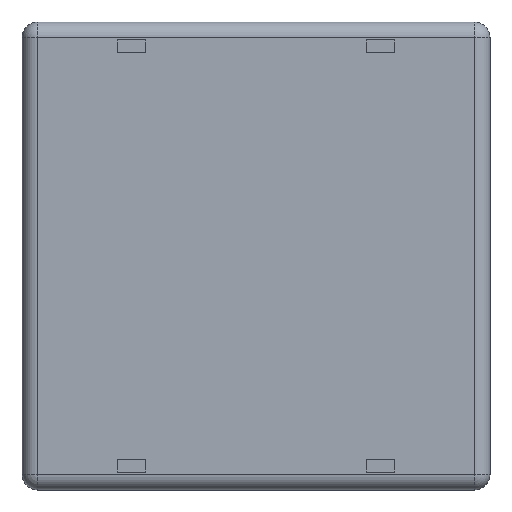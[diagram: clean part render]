
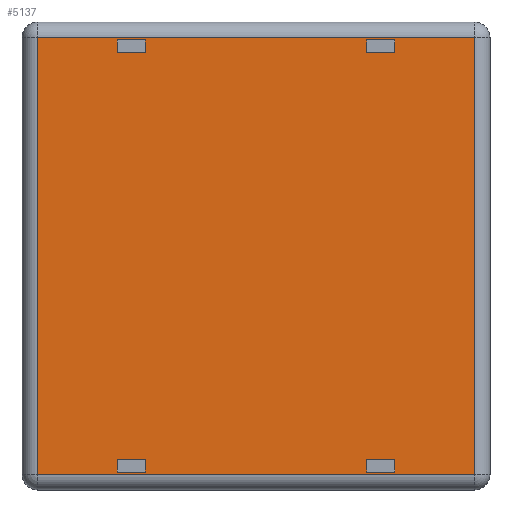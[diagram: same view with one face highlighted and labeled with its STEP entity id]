
A CAD part, front view. The second image highlights one B-rep face of the part: STEP entity #5137.
In plain terms, the highlighted planar face has unit normal (0, -1, 0).
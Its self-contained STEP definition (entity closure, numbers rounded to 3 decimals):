
#144=LINE('',#15174,#553);
#147=LINE('',#15179,#556);
#149=LINE('',#15184,#558);
#152=LINE('',#15189,#561);
#154=LINE('',#15194,#563);
#157=LINE('',#15199,#566);
#159=LINE('',#15204,#568);
#162=LINE('',#15209,#571);
#218=LINE('',#15362,#627);
#220=LINE('',#15370,#629);
#222=LINE('',#15378,#631);
#224=LINE('',#15387,#633);
#246=LINE('',#15442,#655);
#247=LINE('',#15443,#656);
#248=LINE('',#15445,#657);
#249=LINE('',#15446,#658);
#250=LINE('',#15448,#659);
#251=LINE('',#15449,#660);
#252=LINE('',#15451,#661);
#253=LINE('',#15452,#662);
#553=VECTOR('',#6458,10.);
#556=VECTOR('',#6463,10.);
#558=VECTOR('',#6467,10.);
#561=VECTOR('',#6472,10.);
#563=VECTOR('',#6476,10.);
#566=VECTOR('',#6481,10.);
#568=VECTOR('',#6485,10.);
#571=VECTOR('',#6490,10.);
#627=VECTOR('',#6650,10.);
#629=VECTOR('',#6658,10.);
#631=VECTOR('',#6666,10.);
#633=VECTOR('',#6678,10.);
#655=VECTOR('',#6728,10.);
#656=VECTOR('',#6729,10.);
#657=VECTOR('',#6730,10.);
#658=VECTOR('',#6731,10.);
#659=VECTOR('',#6732,10.);
#660=VECTOR('',#6733,10.);
#661=VECTOR('',#6734,10.);
#662=VECTOR('',#6735,10.);
#892=FACE_BOUND('',#1954,.T.);
#893=FACE_BOUND('',#1955,.T.);
#894=FACE_BOUND('',#1956,.T.);
#895=FACE_BOUND('',#1957,.T.);
#1237=PLANE('',#5655);
#1614=FACE_OUTER_BOUND('',#1953,.T.);
#1953=EDGE_LOOP('',(#4307,#4308,#4309,#4310));
#1954=EDGE_LOOP('',(#4311,#4312,#4313,#4314));
#1955=EDGE_LOOP('',(#4315,#4316,#4317,#4318));
#1956=EDGE_LOOP('',(#4319,#4320,#4321,#4322));
#1957=EDGE_LOOP('',(#4323,#4324,#4325,#4326));
#2577=VERTEX_POINT('',#15171);
#2578=VERTEX_POINT('',#15173);
#2579=VERTEX_POINT('',#15177);
#2580=VERTEX_POINT('',#15181);
#2581=VERTEX_POINT('',#15183);
#2582=VERTEX_POINT('',#15187);
#2583=VERTEX_POINT('',#15191);
#2584=VERTEX_POINT('',#15193);
#2585=VERTEX_POINT('',#15197);
#2586=VERTEX_POINT('',#15201);
#2587=VERTEX_POINT('',#15203);
#2588=VERTEX_POINT('',#15207);
#2632=VERTEX_POINT('',#15359);
#2633=VERTEX_POINT('',#15361);
#2636=VERTEX_POINT('',#15369);
#2639=VERTEX_POINT('',#15377);
#2660=VERTEX_POINT('',#15441);
#2661=VERTEX_POINT('',#15444);
#2662=VERTEX_POINT('',#15447);
#2663=VERTEX_POINT('',#15450);
#3123=EDGE_CURVE('',#2578,#2577,#144,.T.);
#3126=EDGE_CURVE('',#2577,#2579,#147,.T.);
#3128=EDGE_CURVE('',#2581,#2580,#149,.T.);
#3131=EDGE_CURVE('',#2580,#2582,#152,.T.);
#3133=EDGE_CURVE('',#2584,#2583,#154,.T.);
#3136=EDGE_CURVE('',#2583,#2585,#157,.T.);
#3138=EDGE_CURVE('',#2587,#2586,#159,.T.);
#3141=EDGE_CURVE('',#2586,#2588,#162,.T.);
#3214=EDGE_CURVE('',#2632,#2633,#218,.T.);
#3218=EDGE_CURVE('',#2633,#2636,#220,.T.);
#3222=EDGE_CURVE('',#2636,#2639,#222,.T.);
#3227=EDGE_CURVE('',#2639,#2632,#224,.T.);
#3255=EDGE_CURVE('',#2588,#2660,#246,.T.);
#3256=EDGE_CURVE('',#2660,#2587,#247,.T.);
#3257=EDGE_CURVE('',#2585,#2661,#248,.T.);
#3258=EDGE_CURVE('',#2661,#2584,#249,.T.);
#3259=EDGE_CURVE('',#2582,#2662,#250,.T.);
#3260=EDGE_CURVE('',#2662,#2581,#251,.T.);
#3261=EDGE_CURVE('',#2579,#2663,#252,.T.);
#3262=EDGE_CURVE('',#2663,#2578,#253,.T.);
#4307=ORIENTED_EDGE('',*,*,#3214,.F.);
#4308=ORIENTED_EDGE('',*,*,#3227,.F.);
#4309=ORIENTED_EDGE('',*,*,#3222,.F.);
#4310=ORIENTED_EDGE('',*,*,#3218,.F.);
#4311=ORIENTED_EDGE('',*,*,#3255,.T.);
#4312=ORIENTED_EDGE('',*,*,#3256,.T.);
#4313=ORIENTED_EDGE('',*,*,#3138,.T.);
#4314=ORIENTED_EDGE('',*,*,#3141,.T.);
#4315=ORIENTED_EDGE('',*,*,#3257,.T.);
#4316=ORIENTED_EDGE('',*,*,#3258,.T.);
#4317=ORIENTED_EDGE('',*,*,#3133,.T.);
#4318=ORIENTED_EDGE('',*,*,#3136,.T.);
#4319=ORIENTED_EDGE('',*,*,#3259,.T.);
#4320=ORIENTED_EDGE('',*,*,#3260,.T.);
#4321=ORIENTED_EDGE('',*,*,#3128,.T.);
#4322=ORIENTED_EDGE('',*,*,#3131,.T.);
#4323=ORIENTED_EDGE('',*,*,#3261,.T.);
#4324=ORIENTED_EDGE('',*,*,#3262,.T.);
#4325=ORIENTED_EDGE('',*,*,#3123,.T.);
#4326=ORIENTED_EDGE('',*,*,#3126,.T.);
#5137=ADVANCED_FACE('',(#1614,#892,#893,#894,#895),#1237,.T.);
#5655=AXIS2_PLACEMENT_3D('',#15440,#6726,#6727);
#6458=DIRECTION('',(-1.,0.,0.));
#6463=DIRECTION('',(0.,0.,1.));
#6467=DIRECTION('',(-1.,0.,0.));
#6472=DIRECTION('',(0.,0.,1.));
#6476=DIRECTION('',(-1.,0.,0.));
#6481=DIRECTION('',(0.,0.,1.));
#6485=DIRECTION('',(-1.,0.,0.));
#6490=DIRECTION('',(0.,0.,1.));
#6650=DIRECTION('',(-1.,0.,0.));
#6658=DIRECTION('',(0.,0.,1.));
#6666=DIRECTION('',(1.,0.,0.));
#6678=DIRECTION('',(0.,0.,-1.));
#6726=DIRECTION('center_axis',(0.,-1.,0.));
#6727=DIRECTION('ref_axis',(0.,0.,-1.));
#6728=DIRECTION('',(1.,0.,0.));
#6729=DIRECTION('',(0.,0.,-1.));
#6730=DIRECTION('',(1.,0.,0.));
#6731=DIRECTION('',(0.,0.,-1.));
#6732=DIRECTION('',(1.,0.,0.));
#6733=DIRECTION('',(0.,0.,-1.));
#6734=DIRECTION('',(1.,0.,0.));
#6735=DIRECTION('',(0.,0.,-1.));
#15171=CARTESIAN_POINT('',(7.1,-4.4,13.05));
#15173=CARTESIAN_POINT('',(8.9,-4.4,13.05));
#15174=CARTESIAN_POINT('',(3.55,-4.4,13.05));
#15177=CARTESIAN_POINT('',(7.1,-4.4,13.85));
#15179=CARTESIAN_POINT('',(7.1,-4.4,6.925));
#15181=CARTESIAN_POINT('',(7.1,-4.4,-13.85));
#15183=CARTESIAN_POINT('',(8.9,-4.4,-13.85));
#15184=CARTESIAN_POINT('',(3.55,-4.4,-13.85));
#15187=CARTESIAN_POINT('',(7.1,-4.4,-13.05));
#15189=CARTESIAN_POINT('',(7.1,-4.4,-6.525));
#15191=CARTESIAN_POINT('',(-8.9,-4.4,13.05));
#15193=CARTESIAN_POINT('',(-7.1,-4.4,13.05));
#15194=CARTESIAN_POINT('',(-4.45,-4.4,13.05));
#15197=CARTESIAN_POINT('',(-8.9,-4.4,13.85));
#15199=CARTESIAN_POINT('',(-8.9,-4.4,6.925));
#15201=CARTESIAN_POINT('',(-8.9,-4.4,-13.85));
#15203=CARTESIAN_POINT('',(-7.1,-4.4,-13.85));
#15204=CARTESIAN_POINT('',(-4.45,-4.4,-13.85));
#15207=CARTESIAN_POINT('',(-8.9,-4.4,-13.05));
#15209=CARTESIAN_POINT('',(-8.9,-4.4,-6.525));
#15359=CARTESIAN_POINT('',(14.,-4.4,-14.));
#15361=CARTESIAN_POINT('',(-14.,-4.4,-14.));
#15362=CARTESIAN_POINT('',(7.5,-4.4,-14.));
#15369=CARTESIAN_POINT('',(-14.,-4.4,14.));
#15370=CARTESIAN_POINT('',(-14.,-4.4,-7.5));
#15377=CARTESIAN_POINT('',(14.,-4.4,14.));
#15378=CARTESIAN_POINT('',(-7.5,-4.4,14.));
#15387=CARTESIAN_POINT('',(14.,-4.4,7.5));
#15440=CARTESIAN_POINT('Origin',(0.,-4.4,0.));
#15441=CARTESIAN_POINT('',(-7.1,-4.4,-13.05));
#15442=CARTESIAN_POINT('',(-3.55,-4.4,-13.05));
#15443=CARTESIAN_POINT('',(-7.1,-4.4,-6.925));
#15444=CARTESIAN_POINT('',(-7.1,-4.4,13.85));
#15445=CARTESIAN_POINT('',(-3.55,-4.4,13.85));
#15446=CARTESIAN_POINT('',(-7.1,-4.4,6.525));
#15447=CARTESIAN_POINT('',(8.9,-4.4,-13.05));
#15448=CARTESIAN_POINT('',(4.45,-4.4,-13.05));
#15449=CARTESIAN_POINT('',(8.9,-4.4,-6.925));
#15450=CARTESIAN_POINT('',(8.9,-4.4,13.85));
#15451=CARTESIAN_POINT('',(4.45,-4.4,13.85));
#15452=CARTESIAN_POINT('',(8.9,-4.4,6.525));
